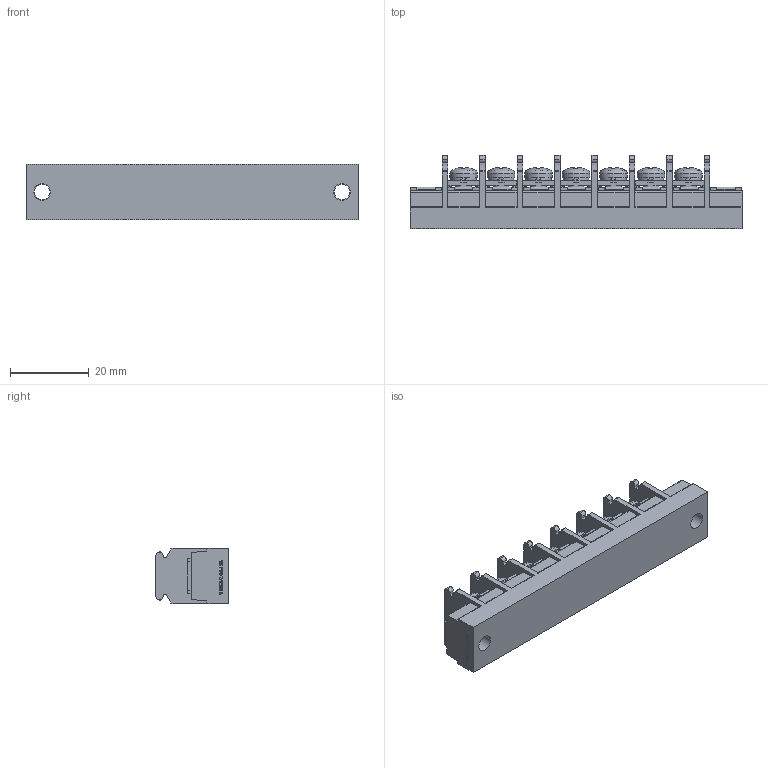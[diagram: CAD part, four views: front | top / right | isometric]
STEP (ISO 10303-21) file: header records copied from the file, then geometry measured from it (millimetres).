
FILE_DESCRIPTION(/* description */ ('Alibre Inc.'),/* implementation_level */ '2;1');
FILE_NAME(/* name */ 'export-945F250E-F1E5-4C16-8402-827695E71031',/* time_stamp */ '2021-02-13T15:52:20+09:00',/* author */ (''),/* organization */ (''),/* preprocessor_version */ 'ST-DEVELOPER v17',/* originating_system */ 'Alibre',/* authorisation */ '');
FILE_SCHEMA (('CONFIG_CONTROL_DESIGN'));
Length unit declared in the file: millimetre
Bounding box: 84.2 x 18.5 x 14 mm (x, y, z)
Volume: 13445.2 mm3; surface area: 8842.2 mm2
Topology: 1 solids, 24 shells, 1249 faces, 3547 edges, 2343 vertices
Faces by surface type: plane 932, cylinder 157, bspline 104, cone 35, torus 14, sphere 7
Full cylindrical faces by diameter (mm): 4 x16, 4.2 x2, 7 x7
Entity records: 38572 total; most frequent: CARTESIAN_POINT 8033, ORIENTED_EDGE 6970, DIRECTION 4953, EDGE_CURVE 3485, VECTOR 2537, LINE 2537, VERTEX_POINT 2327, AXIS2_PLACEMENT_3D 1641
